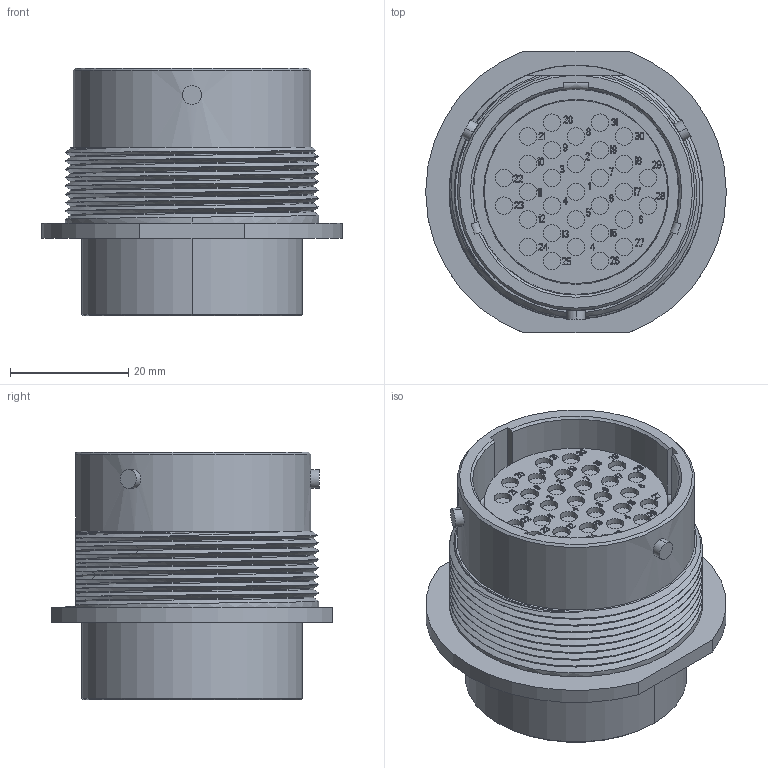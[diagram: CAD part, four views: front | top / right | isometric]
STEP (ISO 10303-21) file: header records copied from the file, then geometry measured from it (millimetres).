
FILE_DESCRIPTION((''),'2;1');
FILE_NAME('C-HD34-24-31ST','2014-02-21T',('workeradm'),('Tyco Electronics Ltd.'),'PRO/ENGINEER BY PARAMETRIC TECHNOLOGY CORPORATION, 2013050','PRO/ENGINEER BY PARAMETRIC TECHNOLOGY CORPORATION, 2013050','');
FILE_SCHEMA(('AUTOMOTIVE_DESIGN { 1 0 10303 214 1 1 1 1 }'));
Length unit declared in the file: millimetre
Products named in the file (1): C-HD34-24-31ST
Bounding box: 50.8 x 47.62 x 41.83 mm (x, y, z)
Volume: 45299.8 mm3; surface area: 14176.8 mm2
Topology: 1 solids, 1 shells, 2192 faces, 5916 edges, 3900 vertices
Faces by surface type: plane 1799, cylinder 223, torus 126, bspline 33, cone 11
Entity records: 94701 total; most frequent: CARTESIAN_POINT 21274, ORIENTED_EDGE 11832, DIRECTION 10830, PRESENTATION_STYLE_ASSIGNMENT 5917, STYLED_ITEM 5917, CURVE_STYLE 5916, EDGE_CURVE 5916, VECTOR 5126
